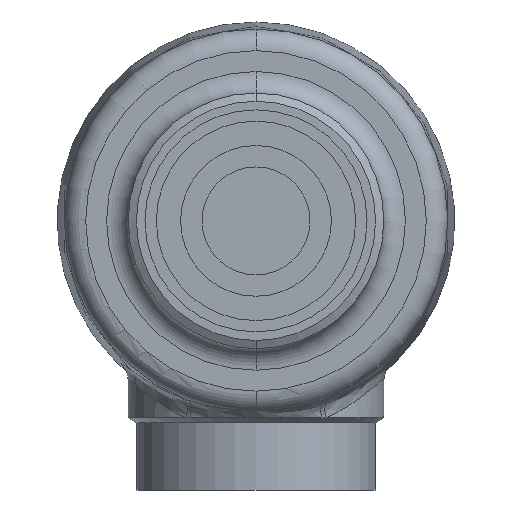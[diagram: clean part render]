
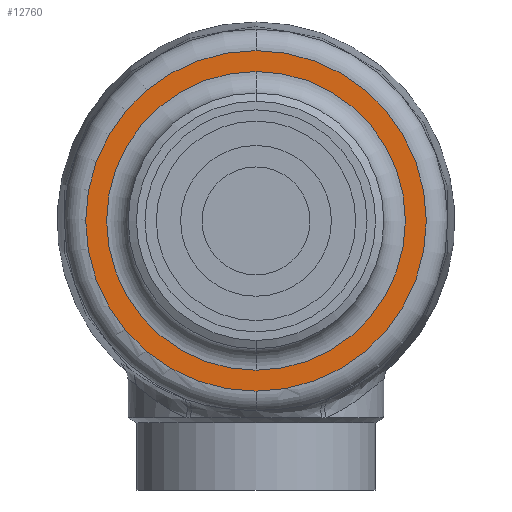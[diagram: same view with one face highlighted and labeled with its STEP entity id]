
A CAD part, front view. The second image highlights one B-rep face of the part: STEP entity #12760.
In plain terms, the highlighted planar face has unit normal (0, -1, 0).
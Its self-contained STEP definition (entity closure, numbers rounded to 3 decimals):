
#217 = CIRCLE ( 'NONE', #218, 55.5 ) ;
#218 = AXIS2_PLACEMENT_3D ( 'NONE', #219, #220, #221 ) ;
#219 = CARTESIAN_POINT ( 'NONE',  ( 0., -129., 0. ) ) ;
#220 = DIRECTION ( 'NONE',  ( 0., 1., 0. ) ) ;
#221 = DIRECTION ( 'NONE',  ( 0., 0., -1. ) ) ;
#16764 = VERTEX_POINT ( 'NONE', #2728 ) ;
#1162 = CARTESIAN_POINT ( 'NONE',  ( 0., -129., 55.5 ) ) ;
#1463 = CARTESIAN_POINT ( 'NONE',  ( 0., -129., -63.274 ) ) ;
#1583 = VERTEX_POINT ( 'NONE', #14775 ) ;
#1694 = CIRCLE ( 'NONE', #1695, 63.274 ) ;
#1695 = AXIS2_PLACEMENT_3D ( 'NONE', #1696, #1697, #1698 ) ;
#1696 = CARTESIAN_POINT ( 'NONE',  ( 0., -129., 0. ) ) ;
#1697 = DIRECTION ( 'NONE',  ( 0., -1., 0. ) ) ;
#1698 = DIRECTION ( 'NONE',  ( 0., 0., -1. ) ) ;
#1796 = EDGE_CURVE ( 'NONE', #1583, #2657, #14929, .T. ) ;
#2204 = FACE_BOUND ( 'NONE', #12529, .T. ) ;
#2205 = FACE_OUTER_BOUND ( 'NONE', #10908, .T. ) ;
#2210 = PLANE ( 'NONE',  #2211 ) ;
#2211 = AXIS2_PLACEMENT_3D ( 'NONE', #2212, #2213, #2214 ) ;
#2212 = CARTESIAN_POINT ( 'NONE',  ( 0., -129., 0. ) ) ;
#2213 = DIRECTION ( 'NONE',  ( 0., -1., 0. ) ) ;
#2214 = DIRECTION ( 'NONE',  ( 0., 0., -1. ) ) ;
#2657 = VERTEX_POINT ( 'NONE', #1162 ) ;
#2700 = CIRCLE ( 'NONE', #2701, 63.274 ) ;
#2701 = AXIS2_PLACEMENT_3D ( 'NONE', #2702, #2703, #2704 ) ;
#2702 = CARTESIAN_POINT ( 'NONE',  ( 0., -129., 0. ) ) ;
#2703 = DIRECTION ( 'NONE',  ( 0., -1., 0. ) ) ;
#2704 = DIRECTION ( 'NONE',  ( 0., 0., -1. ) ) ;
#2728 = CARTESIAN_POINT ( 'NONE',  ( 0., -129., 63.274 ) ) ;
#9976 = ORIENTED_EDGE ( 'NONE', *, *, #13135, .T. ) ;
#10398 = ORIENTED_EDGE ( 'NONE', *, *, #15911, .T. ) ;
#10908 = EDGE_LOOP ( 'NONE', ( #10398, #9976 ) ) ;
#11144 = EDGE_CURVE ( 'NONE', #2657, #1583, #217, .T. ) ;
#11468 = ORIENTED_EDGE ( 'NONE', *, *, #11144, .T. ) ;
#12033 = ORIENTED_EDGE ( 'NONE', *, *, #1796, .T. ) ;
#12529 = EDGE_LOOP ( 'NONE', ( #12033, #11468 ) ) ;
#12760 = ADVANCED_FACE ( 'NONE', ( #2204, #2205 ), #2210, .T. ) ;
#13135 = EDGE_CURVE ( 'NONE', #16764, #15696, #2700, .T. ) ;
#14775 = CARTESIAN_POINT ( 'NONE',  ( 0., -129., -55.5 ) ) ;
#14929 = CIRCLE ( 'NONE', #14930, 55.5 ) ;
#14930 = AXIS2_PLACEMENT_3D ( 'NONE', #14931, #14932, #14933 ) ;
#14931 = CARTESIAN_POINT ( 'NONE',  ( 0., -129., 0. ) ) ;
#14932 = DIRECTION ( 'NONE',  ( 0., 1., 0. ) ) ;
#14933 = DIRECTION ( 'NONE',  ( 0., 0., -1. ) ) ;
#15696 = VERTEX_POINT ( 'NONE', #1463 ) ;
#15911 = EDGE_CURVE ( 'NONE', #15696, #16764, #1694, .T. ) ;
